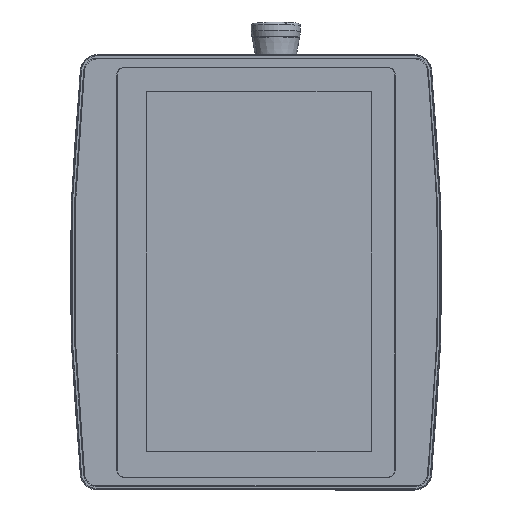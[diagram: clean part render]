
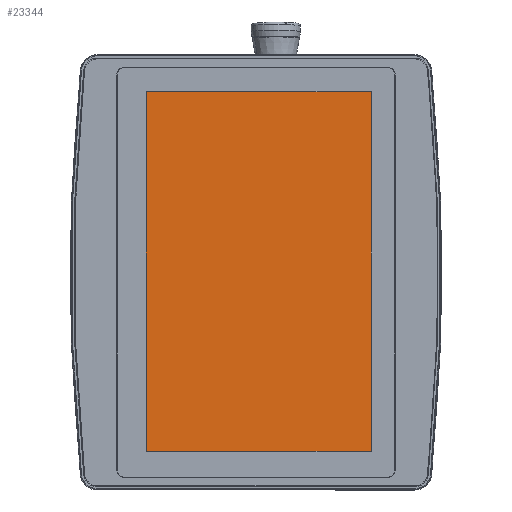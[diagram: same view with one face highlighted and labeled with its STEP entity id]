
A CAD part, top view. The second image highlights one B-rep face of the part: STEP entity #23344.
In plain terms, the highlighted planar face has unit normal (0, 0, 1).
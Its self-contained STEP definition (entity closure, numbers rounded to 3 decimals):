
#1614 = VECTOR ( 'NONE', #42480, 1000. ) ;
#2567 = EDGE_CURVE ( 'NONE', #33910, #7465, #3795, .T. ) ;
#3795 = LINE ( 'NONE', #11555, #33760 ) ;
#4842 = DIRECTION ( 'NONE',  ( 0., 0., 1. ) ) ;
#7465 = VERTEX_POINT ( 'NONE', #11462 ) ;
#7780 = VERTEX_POINT ( 'NONE', #18252 ) ;
#11148 = CARTESIAN_POINT ( 'NONE',  ( -35.335, 287.693, 3.4 ) ) ;
#11462 = CARTESIAN_POINT ( 'NONE',  ( -35.335, 287.693, 3.4 ) ) ;
#11555 = CARTESIAN_POINT ( 'NONE',  ( -35.335, 287.693, 3.4 ) ) ;
#11836 = ORIENTED_EDGE ( 'NONE', *, *, #46582, .T. ) ;
#12043 = LINE ( 'NONE', #11148, #1614 ) ;
#13581 = CARTESIAN_POINT ( 'NONE',  ( -35.335, 69.993, 3.4 ) ) ;
#15546 = LINE ( 'NONE', #13581, #35068 ) ;
#16096 = FACE_OUTER_BOUND ( 'NONE', #47903, .T. ) ;
#16109 = DIRECTION ( 'NONE',  ( 0., -1., 0. ) ) ;
#16957 = EDGE_CURVE ( 'NONE', #7780, #30786, #33582, .T. ) ;
#17509 = DIRECTION ( 'NONE',  ( 1., 0., 0. ) ) ;
#18252 = CARTESIAN_POINT ( 'NONE',  ( -171.735, 287.693, 3.4 ) ) ;
#20198 = PLANE ( 'NONE',  #20893 ) ;
#20893 = AXIS2_PLACEMENT_3D ( 'NONE', #28305, #4842, #32205 ) ;
#21930 = VECTOR ( 'NONE', #16109, 1000. ) ;
#23194 = ORIENTED_EDGE ( 'NONE', *, *, #16957, .T. ) ;
#23344 = ADVANCED_FACE ( 'NONE', ( #16096 ), #20198, .T. ) ;
#27098 = CARTESIAN_POINT ( 'NONE',  ( -35.335, 69.993, 3.4 ) ) ;
#27761 = ORIENTED_EDGE ( 'NONE', *, *, #44205, .T. ) ;
#28305 = CARTESIAN_POINT ( 'NONE',  ( -105.2, 178.343, 3.4 ) ) ;
#30786 = VERTEX_POINT ( 'NONE', #40866 ) ;
#32205 = DIRECTION ( 'NONE',  ( 0., -1., 0. ) ) ;
#33582 = LINE ( 'NONE', #47592, #21930 ) ;
#33760 = VECTOR ( 'NONE', #38914, 1000. ) ;
#33910 = VERTEX_POINT ( 'NONE', #27098 ) ;
#35068 = VECTOR ( 'NONE', #17509, 1000. ) ;
#38914 = DIRECTION ( 'NONE',  ( 0., 1., 0. ) ) ;
#40866 = CARTESIAN_POINT ( 'NONE',  ( -171.735, 69.993, 3.4 ) ) ;
#42480 = DIRECTION ( 'NONE',  ( -1., 0., 0. ) ) ;
#44205 = EDGE_CURVE ( 'NONE', #30786, #33910, #15546, .T. ) ;
#46582 = EDGE_CURVE ( 'NONE', #7465, #7780, #12043, .T. ) ;
#47375 = ORIENTED_EDGE ( 'NONE', *, *, #2567, .T. ) ;
#47592 = CARTESIAN_POINT ( 'NONE',  ( -171.735, 287.693, 3.4 ) ) ;
#47903 = EDGE_LOOP ( 'NONE', ( #11836, #23194, #27761, #47375 ) ) ;
